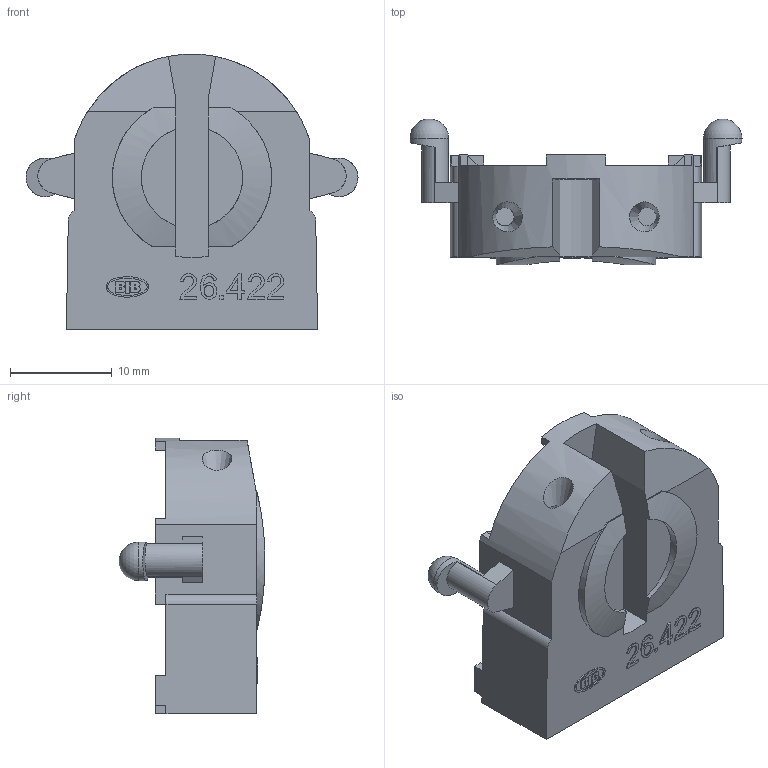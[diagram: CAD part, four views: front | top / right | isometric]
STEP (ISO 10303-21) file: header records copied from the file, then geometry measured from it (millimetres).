
FILE_DESCRIPTION( ( 'Unknown' ), '1' );
FILE_NAME( 'Z:/Datenaustausch/00B-22E-07.stp', 'Unknown', ( 'Unknown' ), ( 'Unknown' ), 'XStep 1.0', 'Unknown', ' ' );
FILE_SCHEMA( ( 'CONFIG_CONTROL_DESIGN' ) );
Length unit declared in the file: millimetre
Products named in the file (1): 1
Bounding box: 32.7 x 14.38 x 27.12 mm (x, y, z)
Volume: 4755.2 mm3; surface area: 2958.7 mm2
Topology: 1 solids, 1 shells, 257 faces, 684 edges, 454 vertices
Faces by surface type: plane 178, cylinder 72, extrusion 3, cone 2, sphere 2
Full cylindrical faces by diameter (mm): 1.8 x2, 3.8 x2
Entity records: 8223 total; most frequent: CARTESIAN_POINT 1717, DIRECTION 1332, ORIENTED_EDGE 1330, EDGE_CURVE 665, VECTOR 502, LINE 499, VERTEX_POINT 446, AXIS2_PLACEMENT_3D 415
